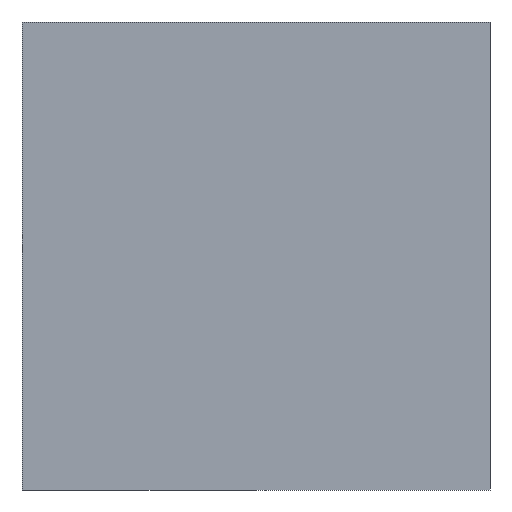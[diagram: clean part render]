
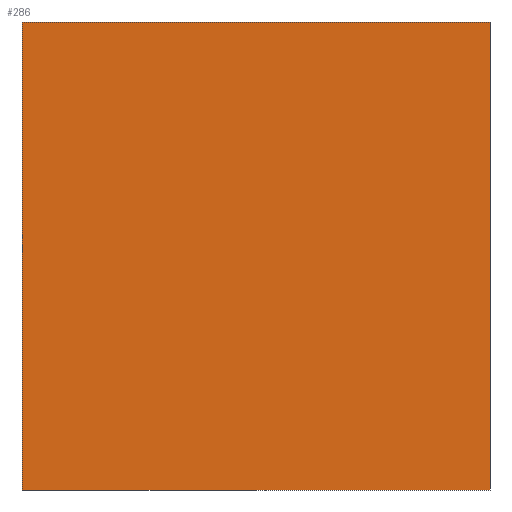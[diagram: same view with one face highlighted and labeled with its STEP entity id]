
A CAD part, left-side view. The second image highlights one B-rep face of the part: STEP entity #286.
In plain terms, the highlighted planar face has unit normal (-1, 0, 0).
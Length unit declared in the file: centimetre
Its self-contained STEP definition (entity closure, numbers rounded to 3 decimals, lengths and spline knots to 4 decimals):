
#6 = EDGE_CURVE ( 'NONE', #152, #215, #327, .T. ) ;
#8 = DIRECTION ( 'NONE',  ( 0., 0., -1. ) ) ;
#10 = CARTESIAN_POINT ( 'NONE',  ( 0., 1000., 1000. ) ) ;
#38 = LINE ( 'NONE', #343, #70 ) ;
#42 = ORIENTED_EDGE ( 'NONE', *, *, #123, .F. ) ;
#63 = AXIS2_PLACEMENT_3D ( 'NONE', #139, #87, #344 ) ;
#68 = VERTEX_POINT ( 'NONE', #259 ) ;
#70 = VECTOR ( 'NONE', #315, 100. ) ;
#87 = DIRECTION ( 'NONE',  ( 1., 0., 0. ) ) ;
#94 = EDGE_CURVE ( 'NONE', #68, #296, #208, .T. ) ;
#103 = ORIENTED_EDGE ( 'NONE', *, *, #362, .T. ) ;
#115 = VECTOR ( 'NONE', #299, 100. ) ;
#123 = EDGE_CURVE ( 'NONE', #68, #152, #174, .T. ) ;
#126 = EDGE_LOOP ( 'NONE', ( #103, #268, #42, #323 ) ) ;
#139 = CARTESIAN_POINT ( 'NONE',  ( 0., 1000., 1000. ) ) ;
#151 = CARTESIAN_POINT ( 'NONE',  ( 0., 1000., 1000. ) ) ;
#152 = VERTEX_POINT ( 'NONE', #212 ) ;
#168 = PLANE ( 'NONE',  #63 ) ;
#174 = LINE ( 'NONE', #151, #115 ) ;
#176 = VECTOR ( 'NONE', #271, 100. ) ;
#195 = CARTESIAN_POINT ( 'NONE',  ( 0., 1000., 0. ) ) ;
#208 = LINE ( 'NONE', #10, #176 ) ;
#212 = CARTESIAN_POINT ( 'NONE',  ( 0., 0., 1000. ) ) ;
#215 = VERTEX_POINT ( 'NONE', #307 ) ;
#259 = CARTESIAN_POINT ( 'NONE',  ( 0., 1000., 1000. ) ) ;
#265 = CARTESIAN_POINT ( 'NONE',  ( 0., 0., 1000. ) ) ;
#268 = ORIENTED_EDGE ( 'NONE', *, *, #6, .F. ) ;
#271 = DIRECTION ( 'NONE',  ( 0., 0., -1. ) ) ;
#286 = ADVANCED_FACE ( 'NONE', ( #347 ), #168, .F. ) ;
#296 = VERTEX_POINT ( 'NONE', #195 ) ;
#299 = DIRECTION ( 'NONE',  ( 0., -1., 0. ) ) ;
#307 = CARTESIAN_POINT ( 'NONE',  ( 0., 0., 0. ) ) ;
#315 = DIRECTION ( 'NONE',  ( 0., -1., 0. ) ) ;
#323 = ORIENTED_EDGE ( 'NONE', *, *, #94, .T. ) ;
#327 = LINE ( 'NONE', #265, #351 ) ;
#343 = CARTESIAN_POINT ( 'NONE',  ( 0., 1000., 0. ) ) ;
#344 = DIRECTION ( 'NONE',  ( 0., 0., -1. ) ) ;
#347 = FACE_OUTER_BOUND ( 'NONE', #126, .T. ) ;
#351 = VECTOR ( 'NONE', #8, 100. ) ;
#362 = EDGE_CURVE ( 'NONE', #296, #215, #38, .T. ) ;
